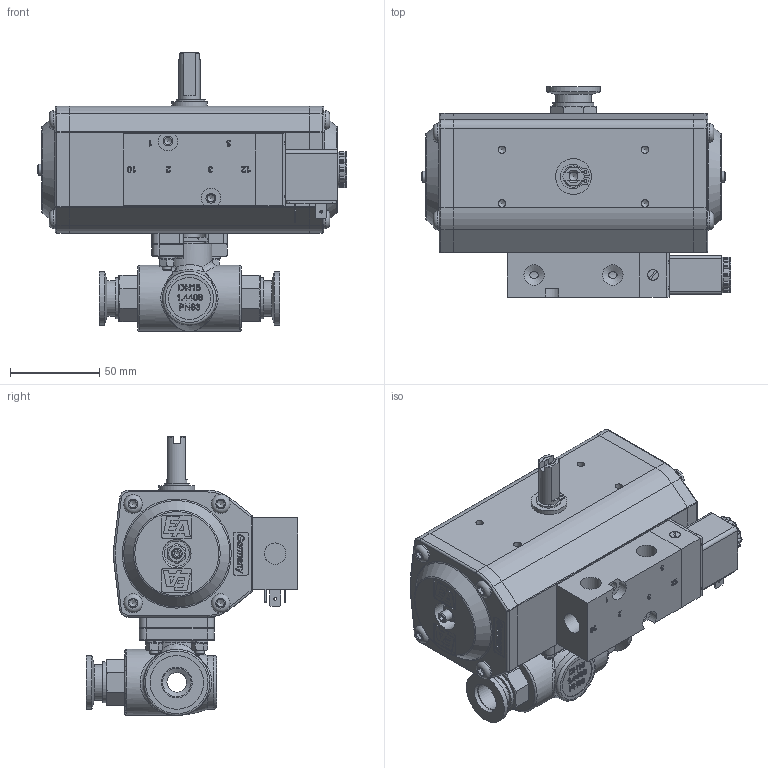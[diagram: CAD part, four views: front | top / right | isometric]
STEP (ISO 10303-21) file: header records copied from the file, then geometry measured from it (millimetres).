
FILE_DESCRIPTION( ( 'Unknown' ), '1' );
FILE_NAME( 'X:/Daten ( aktueller Bestand )/Projekte und Zeichnungen/Solid Edge/STP-Dateien/Kugelhahn, handbetätigt, pneu/416232.stp', 'Unknown', ( 'Unknown' ), ( 'Unknown' ), 'PSStep 14.0', 'Unknown', ' ' );
FILE_SCHEMA( ( 'AUTOMOTIVE_DESIGN { 1 0 10303 214 1 1 1 1 }' ) );
Length unit declared in the file: millimetre
Products named in the file (22): Steuervemtil; AN621X07-GEH_US; DIN EN ISO 7046-1  H  (Regelgewinde) M5 x 6 - 4.8 - H; AMS00001X; AMD00001X; ED620552-KUNDEN_1; EDG55-D_1; EDR55-E_1; EDS0200_01_0114_1; Seegerring A12_2; DIN EN 24 032  (Regelgewinde) M6_4; DIN 913  (Regelgewinde) M6 x 30_1; ISO 7380  (Regelgewinde) M6 x 20_1; DEQ0710_06_0114_1; Assem1; PD311X23_1; DIN 916  (Regelgewinde) M5  x  25; DIN EN 24 032  (Regelgewinde) M5_0; DIN 127 - zur_ckgezogen A 5; PDF0420_03_0014; RED11-9_8-4-3D; 1592
Assembly tree (42 placements, depth 3):
  Assem1
    PD311X23_1
    DIN 916  (Regelgewinde) M5  x  25  x3
    DIN EN 24 032  (Regelgewinde) M5_0  x3
    DIN 127 - zur_ckgezogen A 5  x3
    PDF0420_03_0014
    RED11-9_8-4-3D
    1592  x3
    ED620552-KUNDEN_1
      EDG55-D_1
      EDR55-E_1
      EDS0200_01_0114_1
      Seegerring A12_2
      DIN EN 24 032  (Regelgewinde) M6_4  x2
      DIN 913  (Regelgewinde) M6 x 30_1  x2
      ISO 7380  (Regelgewinde) M6 x 20_1  x8
      DEQ0710_06_0114_1  x2
    Steuervemtil
      AN621X07-GEH_US
      DIN EN ISO 7046-1  H  (Regelgewinde) M5 x 6 - 4.8 - H  x4
      AMS00001X
      AMD00001X
Bounding box: 173.15 x 118 x 156 mm (x, y, z)
Volume: 690036.5 mm3; surface area: 200018.2 mm2
Topology: 40 solids, 40 shells, 2138 faces, 5497 edges, 3552 vertices
Faces by surface type: plane 1051, cylinder 491, extrusion 258, cone 223, torus 80, bspline 35
Full cylindrical faces by diameter (mm): 1.5 x4, 1.7 x2, 2.459 x1, 3.5 x2, 3.9 x1, 4 x1, 4.134 x21, 4.509 x4, 4.917 x16, 5 x8, 5.5 x3, 5.9 x1, 6 x11, 6.5 x8, 6.8 x1, 7 x5, 8.566 x2, 9 x2, 9.3 x4, 10.5 x8, 10.9 x1, 11 x2, 11.445 x2, 11.5 x1, 11.8 x4, 12 x4, 12.2 x1, 13 x10, 14 x1, 14.5 x1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
Entity records: 58523 total; most frequent: CARTESIAN_POINT 13357, ORIENTED_EDGE 6822, DIRECTION 6311, EDGE_CURVE 3411, VERTEX_POINT 2365, AXIS2_PLACEMENT_3D 2131, VECTOR 2049, LINE 1851
